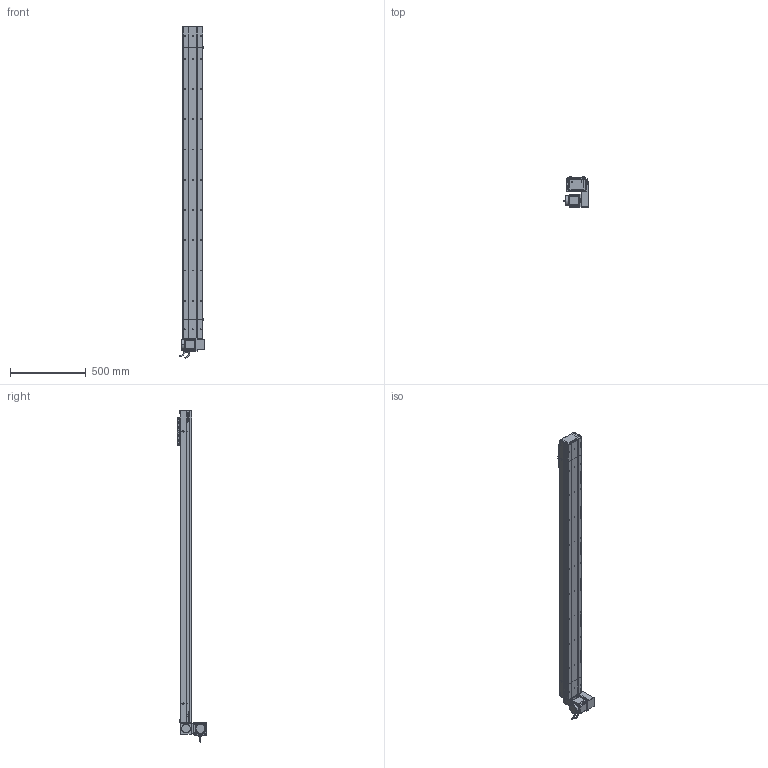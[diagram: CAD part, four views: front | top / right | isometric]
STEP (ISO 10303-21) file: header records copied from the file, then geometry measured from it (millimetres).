
FILE_DESCRIPTION (( 'STEP AP214' ), '1' );
FILE_NAME ('D14 CBH S1800 LU.STEP', '2010-06-30T07:03:27', ( 'Conseil Régional Haute-Normandie' ), ( 'Conseil Régional Haute-Normandie' ), 'SwSTEP 2.0', 'SolidWorks 2010', '' );
FILE_SCHEMA (( 'AUTOMOTIVE_DESIGN' ));
Length unit declared in the file: millimetre
Products named in the file (28): Support moteur Head D14 CBH; avant GMB 90 70 310; GMB 90 70 310; codeur GMB 90 70 310; corps GMB 90 70 310; Conecteur2_Default; Conecteur_Default; corps CBH S1800; Course CBH S1800; D14 CBH S1800 LU; plaque de bout tail CBH d14; Tail CBH D14 B; couvercle CBH S1800; chariot D14; corps tail  CBH d14 B; couvercle tail CBH D14; vis CHC M5; chariot supérieur D14; charriot inférieur D14; corps Head D14 CBH; Head D14 CBH; Head D14 CBH LU; plaque de maintient CBH D14; couvercle Head D14 CBH; vis CHC M7; plaque de bout Head D14 CBH; plaque fermeture Head D14 CBH; Vis CHC M8
Assembly tree (51 placements, depth 4):
  D14 CBH S1800 LU
    Tail CBH D14 B
      plaque de bout tail CBH d14
      vis CHC M7  x4
      corps tail  CBH d14 B
      Vis CHC M8  x2
      couvercle tail CBH D14
      plaque de maintient CBH D14
    chariot D14
      vis CHC M7  x8
      vis CHC M5  x4
      chariot supérieur D14
      charriot inférieur D14
    Head D14 CBH LU
      plaque fermeture Head D14 CBH  x3
      Head D14 CBH
        vis CHC M7  x4
        corps Head D14 CBH
        plaque de bout Head D14 CBH
        Vis CHC M8  x2
        plaque de maintient CBH D14
        couvercle Head D14 CBH
      Support moteur Head D14 CBH
      GMB 90 70 310
        Conecteur_Default
        codeur GMB 90 70 310
        Conecteur2_Default
        avant GMB 90 70 310
        corps GMB 90 70 310
    Course CBH S1800
      corps CBH S1800
      couvercle CBH S1800
Bounding box: 171.5 x 195.75 x 2195.95 mm (x, y, z)
Volume: 6449060.1 mm3; surface area: 2116212.5 mm2
Topology: 51 solids, 51 shells, 2486 faces, 6428 edges, 4224 vertices
Faces by surface type: plane 1371, bspline 538, cylinder 464, torus 61, cone 48, sphere 4
Entity records: 110157 total; most frequent: CARTESIAN_POINT 58316, ORIENTED_EDGE 11152, DIRECTION 8475, EDGE_CURVE 5576, VECTOR 3693, LINE 3693, VERTEX_POINT 3688, AXIS2_PLACEMENT_3D 2391
